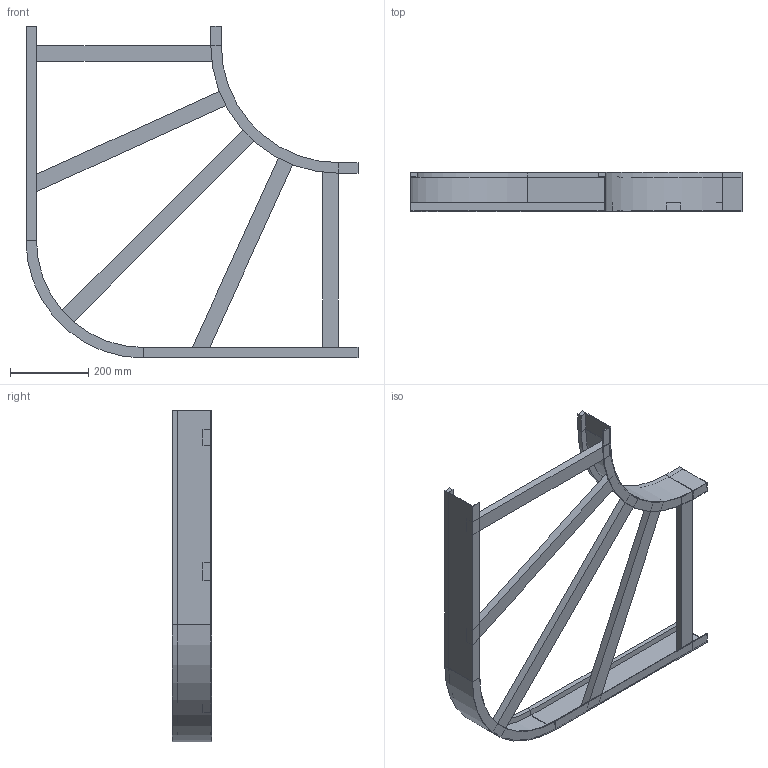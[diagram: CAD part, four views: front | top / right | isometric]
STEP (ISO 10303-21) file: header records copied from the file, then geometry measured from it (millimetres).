
FILE_DESCRIPTION (( 'STEP AP214' ), '1' );
FILE_NAME ('B2_10B3D500.step', '2025-02-21T15:23:34', ( '' ), ( '' ), 'SwSTEP 2.0', 'SolidWorks 2023', '' );
FILE_SCHEMA (( 'AUTOMOTIVE_DESIGN' ));
Length unit declared in the file: millimetre
Products named in the file (6): B2_LONGH.INTERNO 90°_H100_R300; TRAVERSINO_L701; TRAVERSINO_500; TRAVERSINO_600_SCANTONATO; B2_10B3D500; B2_LONGH.ESTERNO 90°_H100_R300+500
Assembly tree (7 placements, depth 2):
  B2_10B3D500
    B2_LONGH.INTERNO 90°_H100_R300
    B2_LONGH.ESTERNO 90°_H100_R300+500
    TRAVERSINO_500  x2
    TRAVERSINO_600_SCANTONATO  x2
    TRAVERSINO_L701
Bounding box: 850 x 100 x 850 mm (x, y, z)
Volume: 3250615.2 mm3; surface area: 966910.1 mm2
Topology: 7 solids, 7 shells, 82 faces, 172 edges, 104 vertices
Faces by surface type: plane 74, cylinder 8
Entity records: 2015 total; most frequent: DIRECTION 324, CARTESIAN_POINT 316, ORIENTED_EDGE 296, EDGE_CURVE 148, LINE 132, VECTOR 132, AXIS2_PLACEMENT_3D 96, VERTEX_POINT 88
